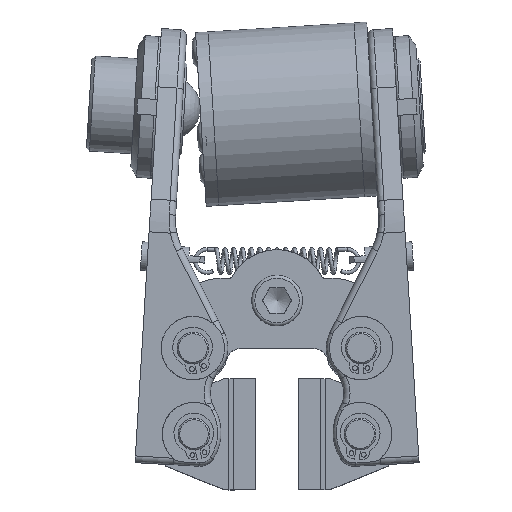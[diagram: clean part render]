
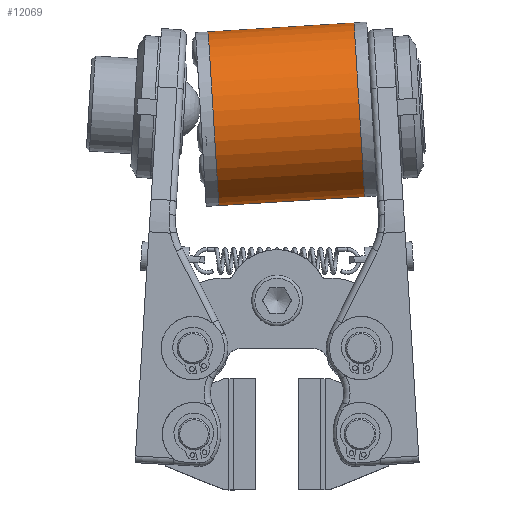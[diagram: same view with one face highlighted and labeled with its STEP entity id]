
A CAD part, top view. The second image highlights one B-rep face of the part: STEP entity #12069.
In plain terms, the highlighted cylindrical face has radius 27.5 mm (diameter 55 mm), a full revolution.
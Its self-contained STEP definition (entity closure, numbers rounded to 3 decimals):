
#1155=FACE_OUTER_BOUND('',#1837,.T.);
#1837=EDGE_LOOP('',(#8492,#8493,#8494,#8495,#8496,#8497,#8498,#8499));
#2609=LINE('',#18425,#3458);
#3458=VECTOR('',#14594,27.5);
#4323=CIRCLE('',#12837,27.5);
#4324=CIRCLE('',#12838,27.5);
#4325=CIRCLE('',#12839,27.5);
#4332=CIRCLE('',#12851,27.5);
#4333=CIRCLE('',#12852,27.5);
#4334=CIRCLE('',#12853,27.5);
#5170=VERTEX_POINT('',#18352);
#5171=VERTEX_POINT('',#18354);
#5172=VERTEX_POINT('',#18356);
#5181=VERTEX_POINT('',#18380);
#5182=VERTEX_POINT('',#18381);
#5183=VERTEX_POINT('',#18383);
#6436=EDGE_CURVE('',#5171,#5170,#4323,.T.);
#6437=EDGE_CURVE('',#5172,#5171,#4324,.T.);
#6438=EDGE_CURVE('',#5170,#5172,#4325,.T.);
#6447=EDGE_CURVE('',#5181,#5182,#4332,.T.);
#6448=EDGE_CURVE('',#5182,#5183,#4333,.T.);
#6449=EDGE_CURVE('',#5183,#5181,#4334,.T.);
#6471=EDGE_CURVE('',#5183,#5171,#2609,.T.);
#8492=ORIENTED_EDGE('',*,*,#6448,.F.);
#8493=ORIENTED_EDGE('',*,*,#6447,.F.);
#8494=ORIENTED_EDGE('',*,*,#6449,.F.);
#8495=ORIENTED_EDGE('',*,*,#6471,.T.);
#8496=ORIENTED_EDGE('',*,*,#6436,.T.);
#8497=ORIENTED_EDGE('',*,*,#6438,.T.);
#8498=ORIENTED_EDGE('',*,*,#6437,.T.);
#8499=ORIENTED_EDGE('',*,*,#6471,.F.);
#11804=CYLINDRICAL_SURFACE('',#12875,27.5);
#12069=ADVANCED_FACE('',(#1155),#11804,.T.);
#12837=AXIS2_PLACEMENT_3D('',#18355,#14505,#14506);
#12838=AXIS2_PLACEMENT_3D('',#18357,#14507,#14508);
#12839=AXIS2_PLACEMENT_3D('',#18358,#14509,#14510);
#12851=AXIS2_PLACEMENT_3D('',#18382,#14535,#14536);
#12852=AXIS2_PLACEMENT_3D('',#18384,#14537,#14538);
#12853=AXIS2_PLACEMENT_3D('',#18385,#14539,#14540);
#12875=AXIS2_PLACEMENT_3D('',#18424,#14592,#14593);
#14505=DIRECTION('center_axis',(0.998,0.061,0.));
#14506=DIRECTION('ref_axis',(-0.043,0.704,0.708));
#14507=DIRECTION('center_axis',(0.998,0.061,0.));
#14508=DIRECTION('ref_axis',(-0.043,0.704,0.708));
#14509=DIRECTION('center_axis',(0.998,0.061,0.));
#14510=DIRECTION('ref_axis',(-0.043,0.704,0.708));
#14535=DIRECTION('center_axis',(0.998,0.061,0.));
#14536=DIRECTION('ref_axis',(-0.043,0.704,0.708));
#14537=DIRECTION('center_axis',(0.998,0.061,0.));
#14538=DIRECTION('ref_axis',(-0.043,0.704,0.708));
#14539=DIRECTION('center_axis',(0.998,0.061,0.));
#14540=DIRECTION('ref_axis',(-0.043,0.704,0.708));
#14592=DIRECTION('center_axis',(0.998,0.061,0.));
#14593=DIRECTION('ref_axis',(-0.043,0.704,0.708));
#14594=DIRECTION('',(-0.998,-0.061,0.));
#18352=CARTESIAN_POINT('',(-21.183,101.745,-19.409));
#18354=CARTESIAN_POINT('',(-18.811,62.927,-19.482));
#18355=CARTESIAN_POINT('Origin',(-19.995,82.3,0.));
#18356=CARTESIAN_POINT('',(-21.178,101.673,19.482));
#18357=CARTESIAN_POINT('Origin',(-19.995,82.3,0.));
#18358=CARTESIAN_POINT('Origin',(-19.995,82.3,0.));
#18380=CARTESIAN_POINT('',(25.187,97.099,-24.736));
#18381=CARTESIAN_POINT('',(24.736,104.477,19.482));
#18382=CARTESIAN_POINT('Origin',(25.92,85.104,0.));
#18383=CARTESIAN_POINT('',(27.103,65.731,-19.482));
#18384=CARTESIAN_POINT('Origin',(25.92,85.104,0.));
#18385=CARTESIAN_POINT('Origin',(25.92,85.104,0.));
#18424=CARTESIAN_POINT('Origin',(2.962,83.702,0.));
#18425=CARTESIAN_POINT('',(4.146,64.329,-19.482));
